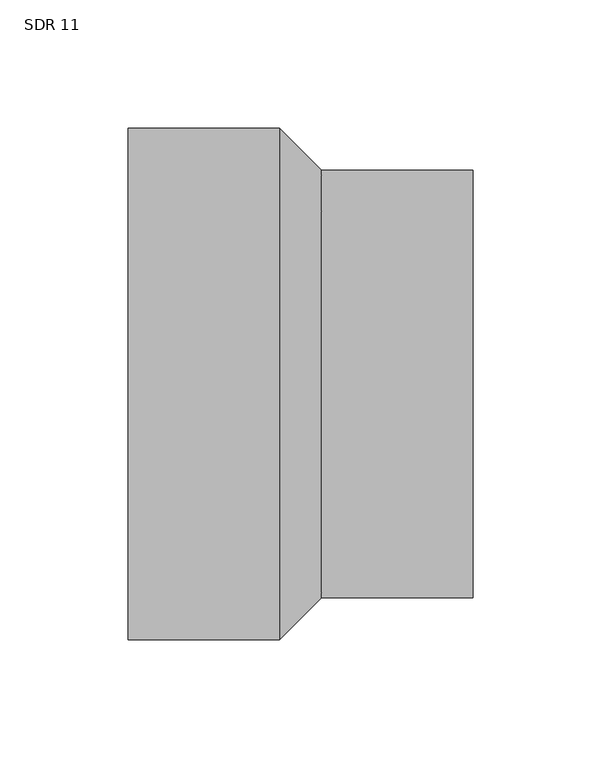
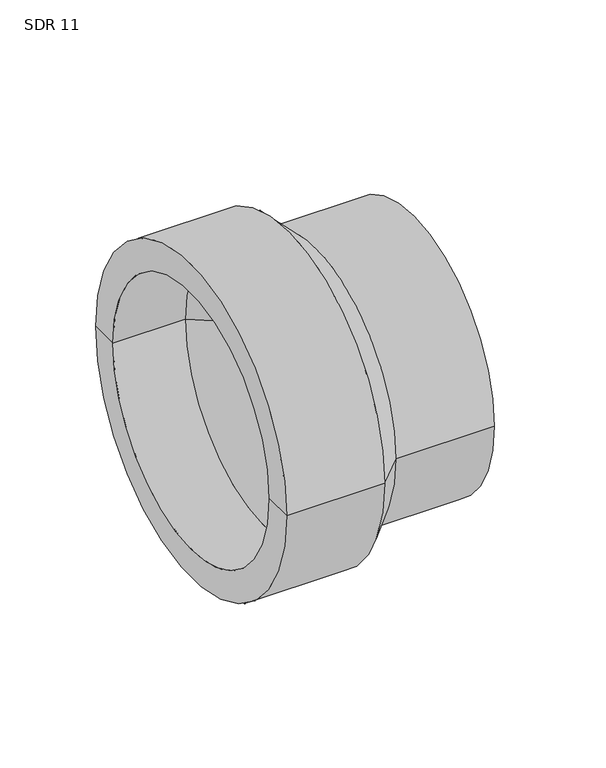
"""IFC4 building model written with IfcOpenShell, lengths in millimetres: pipe fitting geometry, Aquatherm - Reducing Coupling Butt Weld to Socket : SDR 11."""

from ifc_helpers import new_model, si_unit, frame, origin, place, context, project, spatial, polyline, circle_curve, source, transform, mapped, element, save
from ifc_brep_helpers import plane_surface, cylinder_surface, revolved_surface, advanced_brep


def sdr_11_eb01ff94(model_context):
    return source(origin(), model_context, "Body", "AdvancedBrep", [
        advanced_brep(
        [(30.734, -83.439, 0.0), (30.734, 83.439, 0.0), (89.916, 83.439, 0.0), (89.916, -83.439, 0.0), (89.916, 62.484, 0.0), (89.916, -62.484, 0.0), (-1.27, -81.915, 0.0), (-1.27, 81.915, 0.0), (-44.958, 81.915, 0.0), (-44.958, -81.915, 0.0), (-44.958, 99.949, 0.0), (-44.958, -99.949, 0.0), (50.038, 62.484, 0.0), (50.038, -62.484, 0.0), (50.038, 50.927, 0.0), (50.038, -50.927, 0.0), (42.418, 50.927, 0.0), (42.418, -50.927, 0.0), (14.224, 99.949, 0.0), (14.224, -99.949, 0.0)],
        [
            (0, 1, circle_curve(frame((30.734, 0.0, 0.0), z_axis=(1.0, 0.0, 0.0), x_axis=(0.0, 1.0, 0.0)), 83.439)),
            (1, 2),
            (2, 3, circle_curve(frame((89.916, 0.0, 0.0), z_axis=(-1.0, 0.0, 0.0), x_axis=(0.0, 1.0, 0.0)), 83.439)),
            (3, 0),
            (1, 0, circle_curve(frame((30.734, 0.0, 0.0), z_axis=(1.0, 0.0, 0.0), x_axis=(0.0, 1.0, 0.0)), 83.439)),
            (3, 2, circle_curve(frame((89.916, 0.0, 0.0), z_axis=(-1.0, 0.0, 0.0), x_axis=(0.0, 1.0, 0.0)), 83.439)),
            (2, 4),
            (4, 5, circle_curve(frame((89.916, 0.0, 0.0), z_axis=(-1.0, 0.0, 0.0), x_axis=(0.0, 1.0, 0.0)), 62.484)),
            (5, 3),
            (5, 4, circle_curve(frame((89.916, 0.0, 0.0), z_axis=(-1.0, 0.0, 0.0), x_axis=(0.0, 1.0, 0.0)), 62.484)),
            (6, 7, circle_curve(frame((-1.27, 0.0, 0.0), z_axis=(1.0, 0.0, 0.0), x_axis=(0.0, 1.0, 0.0)), 81.915)),
            (7, 8),
            (8, 9, circle_curve(frame((-44.958, 0.0, 0.0), z_axis=(-1.0, 0.0, 0.0), x_axis=(0.0, 1.0, 0.0)), 81.915)),
            (9, 6),
            (7, 6, circle_curve(frame((-1.27, 0.0, 0.0), z_axis=(1.0, 0.0, 0.0), x_axis=(0.0, 1.0, 0.0)), 81.915)),
            (9, 8, circle_curve(frame((-44.958, 0.0, 0.0), z_axis=(-1.0, 0.0, 0.0), x_axis=(0.0, 1.0, 0.0)), 81.915)),
            (8, 10),
            (10, 11, circle_curve(frame((-44.958, 0.0, 0.0), z_axis=(-1.0, 0.0, 0.0), x_axis=(0.0, 1.0, 0.0)), 99.949)),
            (11, 9),
            (11, 10, circle_curve(frame((-44.958, 0.0, 0.0), z_axis=(-1.0, 0.0, 0.0), x_axis=(0.0, 1.0, 0.0)), 99.949)),
            (4, 12),
            (12, 13, circle_curve(frame((50.038, 0.0, 0.0), z_axis=(-1.0, 0.0, 0.0), x_axis=(0.0, 1.0, 0.0)), 62.484)),
            (13, 5),
            (13, 12, circle_curve(frame((50.038, 0.0, 0.0), z_axis=(-1.0, 0.0, 0.0), x_axis=(0.0, 1.0, 0.0)), 62.484)),
            (12, 14),
            (14, 15, circle_curve(frame((50.038, 0.0, 0.0), z_axis=(-1.0, 0.0, 0.0), x_axis=(0.0, 1.0, 0.0)), 50.927)),
            (15, 13),
            (15, 14, circle_curve(frame((50.038, 0.0, 0.0), z_axis=(-1.0, 0.0, 0.0), x_axis=(0.0, 1.0, 0.0)), 50.927)),
            (14, 16),
            (16, 17, circle_curve(frame((42.418, 0.0, 0.0), z_axis=(-1.0, 0.0, 0.0), x_axis=(0.0, 1.0, 0.0)), 50.927)),
            (17, 15),
            (17, 16, circle_curve(frame((42.418, 0.0, 0.0), z_axis=(-1.0, 0.0, 0.0), x_axis=(0.0, 1.0, 0.0)), 50.927)),
            (10, 18),
            (18, 19, circle_curve(frame((14.224, 0.0, 0.0), z_axis=(-1.0, 0.0, 0.0), x_axis=(0.0, 1.0, 0.0)), 99.949)),
            (19, 11),
            (19, 18, circle_curve(frame((14.224, 0.0, 0.0), z_axis=(-1.0, 0.0, 0.0), x_axis=(0.0, 1.0, 0.0)), 99.949)),
            (16, 7),
            (6, 17),
            (18, 1),
            (0, 19),
        ],
        [
            cylinder_surface(frame((-77.0252293, 0.0, 0.0), z_axis=(-1.0, 0.0, 0.0), x_axis=(0.0, 1.0, 0.0)), 83.439),
            plane_surface(frame((89.916, 0.0, 0.0), z_axis=(1.0, 0.0, 0.0), x_axis=(0.0, 1.0, 0.0))),
            revolved_surface(polyline([(-44.958, 81.915, 0.0), (-1.269999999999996, 81.915, 0.0)]), (-77.0252293, 0.0, 0.0), (-1.0, 0.0, 0.0)),
            plane_surface(frame((-44.958, 0.0, 0.0), z_axis=(-1.0, 0.0, 0.0), x_axis=(0.0, 1.0, 0.0))),
            revolved_surface(polyline([(50.038, 62.484, 0.0), (89.916, 62.484, 0.0)]), (-77.0252293, 0.0, 0.0), (-1.0, 0.0, 0.0)),
            plane_surface(frame((50.038, 0.0, 0.0), z_axis=(1.0, 0.0, 0.0), x_axis=(0.0, 1.0, 0.0))),
            revolved_surface(polyline([(42.418000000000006, 50.927, 0.0), (50.038, 50.927, 0.0)]), (-77.0252293, 0.0, 0.0), (-1.0, 0.0, 0.0)),
            cylinder_surface(frame((-77.0252293, 0.0, 0.0), z_axis=(-1.0, 0.0, 0.0), x_axis=(0.0, 1.0, 0.0)), 99.949),
            revolved_surface(polyline([(-1.27, 81.915, 0.0), (42.418, 50.927, 0.0)]), (-77.0252293, 0.0, 0.0), (-1.0, 0.0, 0.0)),
            revolved_surface(polyline([(30.734, 83.439, 0.0), (14.224, 99.949, 0.0)]), (-77.0252293, 0.0, 0.0), (-1.0, 0.0, 0.0)),
        ],
        [
            (0, [[1, 2, 3, 4]]),
            (0, [[5, -4, 6, -2]]),
            (1, [[-3, 7, 8, 9]]),
            (1, [[-6, -9, 10, -7]]),
            (2, [[11, 12, 13, 14]]),
            (2, [[15, -14, 16, -12]]),
            (3, [[-13, 17, 18, 19]]),
            (3, [[-16, -19, 20, -17]]),
            (4, [[-8, 21, 22, 23]]),
            (4, [[-10, -23, 24, -21]]),
            (5, [[-22, 25, 26, 27]]),
            (5, [[-24, -27, 28, -25]]),
            (6, [[-26, 29, 30, 31]]),
            (6, [[-28, -31, 32, -29]]),
            (7, [[-18, 33, 34, 35]]),
            (7, [[-20, -35, 36, -33]]),
            (8, [[-30, 37, -11, 38]]),
            (8, [[-32, -38, -15, -37]]),
            (9, [[-34, 39, -1, 40]]),
            (9, [[-36, -40, -5, -39]]),
        ],
    ),
    ])


if __name__ == "__main__":
    model = new_model("IFC4")
    model_context = context("Model", 3, world=origin())
    ifc_project = project(units=[si_unit("LENGTHUNIT", "METRE", prefix="MILLI")], contexts=[model_context])
    site = spatial("IfcSite", under=ifc_project)
    building = spatial("IfcBuilding", under=site)
    placement = place(None, origin())
    sdr_11_shape = sdr_11_eb01ff94(model_context)
    element("IfcPipeFitting", 1, ObjectType="Aquatherm - Reducing Coupling Butt Weld to Socket : SDR 11", at=placement, inside=building, context=model_context, shape_type="MappedRepresentation", body=[
        mapped(sdr_11_shape, transform((0.0, 0.0, 0.0), x_axis=(1.0, 0.0, 0.0), y_axis=(0.0, 1.0, 0.0), z_axis=(0.0, 0.0, 1.0))),
    ])
    save(model, "model.ifc")
